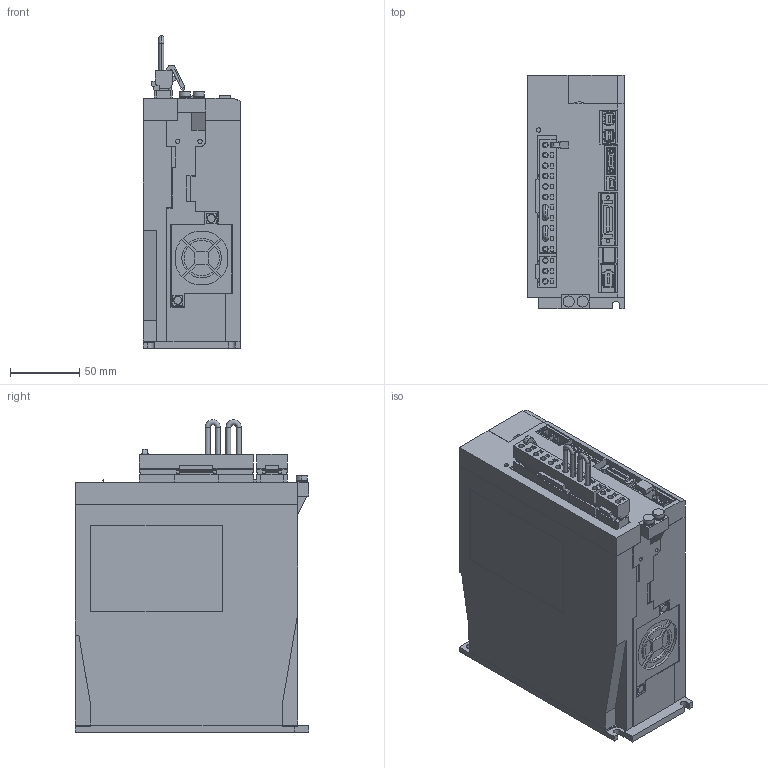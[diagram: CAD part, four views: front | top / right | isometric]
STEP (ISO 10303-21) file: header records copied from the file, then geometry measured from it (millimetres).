
FILE_DESCRIPTION (( 'STEP AP203' ), '1' );
FILE_NAME ('sgd7s_7r6a20a.STEP', '2014-03-06T04:31:39', ( '匠エンジニアリング山之内' ), ( 'TAKUMI-Engniaring' ), 'SwSTEP 2.0', 'SolidWorks 2006303', '' );
FILE_SCHEMA (( 'CONFIG_CONTROL_DESIGN' ));
Length unit declared in the file: millimetre
Products named in the file (10): sgd7s_7r6a20a_cable; sgd7s_7r6a20a_connector_1; sgd7s_7r6a20a; sgd7s_7r6a20a_base; sgd7s_7r6a20a_connector; sgd7s_7r6a20a_connector_2; sgd7s_7r6a20a_pin; sgd7s_7r6a20a_cover; sgd7s_7r6a20a_cover2; sgd7s_7r6a20a_connector_3
Assembly tree (11 placements, depth 3):
  sgd7s_7r6a20a
    sgd7s_7r6a20a_connector
      sgd7s_7r6a20a_pin
      sgd7s_7r6a20a_cable  x2
      sgd7s_7r6a20a_connector_2
    sgd7s_7r6a20a_connector_3
    sgd7s_7r6a20a_cover2  x2
    sgd7s_7r6a20a_cover
    sgd7s_7r6a20a_connector_1
    sgd7s_7r6a20a_base
Bounding box: 70.5 x 168 x 225 mm (x, y, z)
Volume: 1991655 mm3; surface area: 151544.5 mm2
Topology: 10 solids, 10 shells, 1868 faces, 4867 edges, 3202 vertices
Faces by surface type: plane 1648, cylinder 211, torus 4, cone 4, sphere 1
Entity records: 56438 total; most frequent: CARTESIAN_POINT 9785, ORIENTED_EDGE 9574, DIRECTION 8904, EDGE_CURVE 4787, VECTOR 4366, LINE 4366, VERTEX_POINT 3150, AXIS2_PLACEMENT_3D 2269
